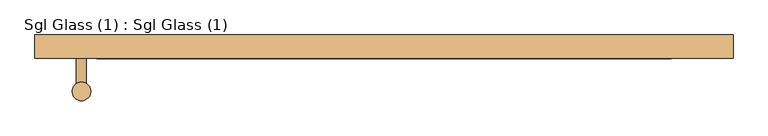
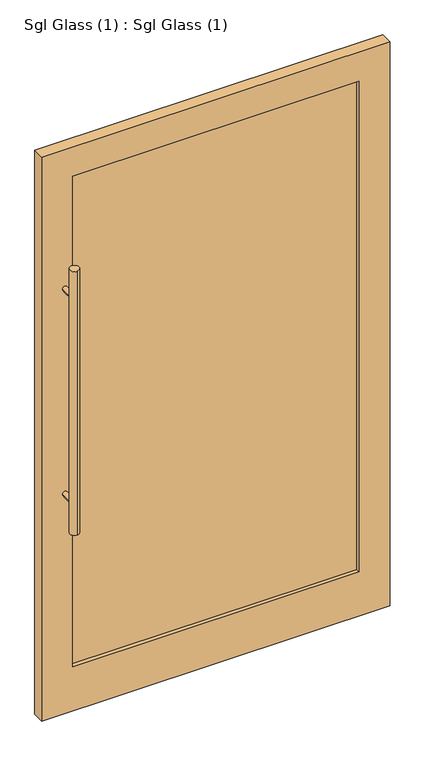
"""IFC4 building model written with IfcOpenShell, lengths in millimetres: door geometry, Sgl Glass (1) : Sgl Glass (1)."""

from ifc_helpers import new_model, si_unit, point, frame, frame_2d, origin, place, context, project, spatial, polyline, circle_curve, trimmed, segment, composite_curve, outline, extrude, source, transform, mapped, element, save


def sgl_glass_1_sgl_glass_1_c4b590e0(model_context):
    return source(origin(), model_context, "Body", "SweptSolid", [
        extrude(outline(polyline([(462.5000002, -50.0), (-462.5000002, -50.0), (-462.5000002, -38.0), (462.5000002, -38.0), (462.5000002, -50.0)])), frame((0.0, 0.0, 150.0), z_axis=(0.0, 0.0, 1.0), x_axis=(1.0, 0.0, 0.0)), (0.0, 0.0, 1.0), 1675.0),
        extrude(outline(composite_curve([segment(trimmed(circle_curve(frame_2d((-487.5000002, -116.0)), 15.0), [point((-487.5000002, -101.0))], [point((-487.5000002, -131.0))], False, "CARTESIAN"), True, "CONTINUOUS"), segment(trimmed(circle_curve(frame_2d((-487.5000002, -116.0)), 15.0), [point((-487.5000002, -131.0))], [point((-487.5000002, -101.0))], False, "CARTESIAN"), True, "CONTINUOUS")], self_intersect=False)), frame((0.0, 0.0, 650.0), z_axis=(0.0, 0.0, 1.0), x_axis=(1.0, 0.0, 0.0)), (0.0, 0.0, 1.0), 900.0),
        extrude(outline(composite_curve([segment(trimmed(circle_curve(frame_2d((750.0, -487.5000002)), 8.0), [point((750.0, -479.5000002))], [point((750.0, -495.5000002))], False, "CARTESIAN"), True, "CONTINUOUS"), segment(trimmed(circle_curve(frame_2d((750.0, -487.5000002)), 8.0), [point((750.0, -495.5000002))], [point((750.0, -479.5000002))], False, "CARTESIAN"), True, "CONTINUOUS")], self_intersect=False)), frame((0.0, -116.0, 0.0), z_axis=(0.0, 1.0, 0.0), x_axis=(0.0, 0.0, 1.0)), (0.0, 0.0, 1.0), 53.0),
        extrude(outline(composite_curve([segment(trimmed(circle_curve(frame_2d((1450.0, -487.5000002)), 8.0), [point((1450.0, -479.5000002))], [point((1450.0, -495.5000002))], False, "CARTESIAN"), True, "CONTINUOUS"), segment(trimmed(circle_curve(frame_2d((1450.0, -487.5000002)), 8.0), [point((1450.0, -495.5000002))], [point((1450.0, -479.5000002))], False, "CARTESIAN"), True, "CONTINUOUS")], self_intersect=False)), frame((0.0, -116.0, 0.0), z_axis=(0.0, 1.0, 0.0), x_axis=(0.0, 0.0, 1.0)), (0.0, 0.0, 1.0), 53.0),
        extrude(outline(polyline([(0.0, -562.5000002), (0.0, 562.5000002), (1925.0, 562.5000002), (1925.0, -562.5000002), (0.0, -562.5000002)]), holes=[polyline([(1825.0, 462.5000002), (150.0, 462.5000002), (150.0, -462.5000002), (1825.0, -462.5000002), (1825.0, 462.5000002)])]), frame((0.0, -63.0, 0.0), z_axis=(0.0, 1.0, 0.0), x_axis=(0.0, 0.0, 1.0)), (0.0, 0.0, 1.0), 38.0),
    ])


if __name__ == "__main__":
    model = new_model("IFC4")
    model_context = context("Model", 3, world=origin())
    ifc_project = project(units=[si_unit("LENGTHUNIT", "METRE", prefix="MILLI")], contexts=[model_context])
    site = spatial("IfcSite", under=ifc_project)
    building = spatial("IfcBuilding", under=site)
    placement = place(None, origin())
    sgl_glass_1_sgl_glass_1_shape = sgl_glass_1_sgl_glass_1_c4b590e0(model_context)
    element("IfcDoor", 1, ObjectType="Sgl Glass (1) : Sgl Glass (1)", at=placement, inside=building, context=model_context, shape_type="MappedRepresentation", body=[
        mapped(sgl_glass_1_sgl_glass_1_shape, transform((0.0, 0.0, 0.0), x_axis=(1.0, 0.0, 0.0), y_axis=(0.0, 1.0, 0.0), z_axis=(0.0, 0.0, 1.0))),
    ])
    save(model, "model.ifc")
